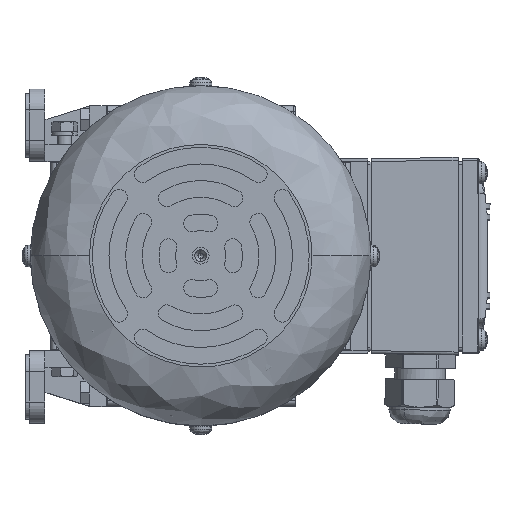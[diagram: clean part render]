
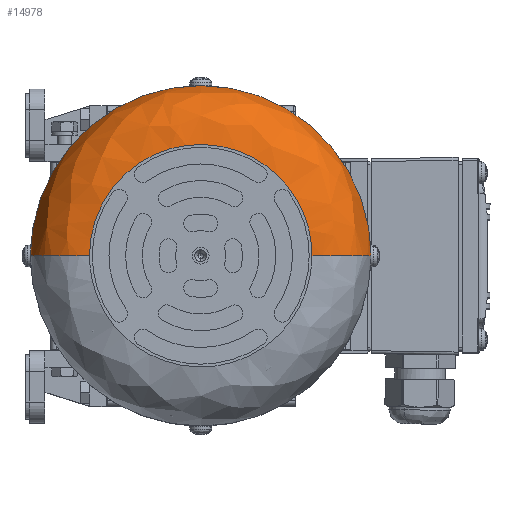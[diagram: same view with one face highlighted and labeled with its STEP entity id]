
A CAD part, top view. The second image highlights one B-rep face of the part: STEP entity #14978.
In plain terms, the highlighted free-form (B-spline) face has degree [3, 3] with [4, 7] control points.
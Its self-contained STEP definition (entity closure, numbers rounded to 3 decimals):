
#14978 = ADVANCED_FACE ( 'NONE', ( #27130 ), #31930, .T. ) ;
#15520 = EDGE_CURVE ( 'NONE', #120495, #120494, #107107, .T. ) ;
#17430 = CARTESIAN_POINT ( 'NONE',  ( 40., 80., 0. ) ) ;
#17484 = CARTESIAN_POINT ( 'NONE',  ( 40., 0., 0. ) ) ;
#17488 = CARTESIAN_POINT ( 'NONE',  ( -40., 80., 0. ) ) ;
#17489 = CARTESIAN_POINT ( 'NONE',  ( -40., 0., 0. ) ) ;
#27121 = CARTESIAN_POINT ( 'NONE',  ( 61.2, 0., 21.2 ) ) ;
#27130 = FACE_OUTER_BOUND ( 'NONE', #61329, .T. ) ;
#27140 = CARTESIAN_POINT ( 'NONE',  ( 61.2, 35.85, 21.2 ) ) ;
#27143 = CARTESIAN_POINT ( 'NONE',  ( 35.85, 61.2, 21.2 ) ) ;
#27146 = CARTESIAN_POINT ( 'NONE',  ( 0., 61.2, 21.2 ) ) ;
#27149 = CARTESIAN_POINT ( 'NONE',  ( -35.85, 61.2, 21.2 ) ) ;
#27152 = CARTESIAN_POINT ( 'NONE',  ( -61.2, 35.85, 21.2 ) ) ;
#27155 = CARTESIAN_POINT ( 'NONE',  ( -61.2, 0., 21.2 ) ) ;
#27158 = CARTESIAN_POINT ( 'NONE',  ( 61.2, 0., 8.781 ) ) ;
#27161 = CARTESIAN_POINT ( 'NONE',  ( 61.2, 35.85, 8.781 ) ) ;
#27164 = CARTESIAN_POINT ( 'NONE',  ( 35.85, 61.2, 8.781 ) ) ;
#27167 = CARTESIAN_POINT ( 'NONE',  ( 0., 61.2, 8.781 ) ) ;
#27170 = CARTESIAN_POINT ( 'NONE',  ( -35.85, 61.2, 8.781 ) ) ;
#27173 = CARTESIAN_POINT ( 'NONE',  ( -61.2, 35.85, 8.781 ) ) ;
#27176 = CARTESIAN_POINT ( 'NONE',  ( -61.2, 0., 8.781 ) ) ;
#27179 = CARTESIAN_POINT ( 'NONE',  ( 52.419, 0., 0. ) ) ;
#27182 = CARTESIAN_POINT ( 'NONE',  ( 52.419, 30.706, 0. ) ) ;
#27185 = CARTESIAN_POINT ( 'NONE',  ( 30.706, 52.419, 0. ) ) ;
#27188 = CARTESIAN_POINT ( 'NONE',  ( 0., 52.419, 0. ) ) ;
#27191 = CARTESIAN_POINT ( 'NONE',  ( -30.706, 52.419, 0. ) ) ;
#27194 = CARTESIAN_POINT ( 'NONE',  ( -52.419, 30.706, 0. ) ) ;
#27197 = CARTESIAN_POINT ( 'NONE',  ( -52.419, 0., 0. ) ) ;
#27200 = CARTESIAN_POINT ( 'NONE',  ( 40., 0., 0. ) ) ;
#27203 = CARTESIAN_POINT ( 'NONE',  ( 40., 23.431, 0. ) ) ;
#27206 = CARTESIAN_POINT ( 'NONE',  ( 23.431, 40., 0. ) ) ;
#27209 = CARTESIAN_POINT ( 'NONE',  ( 0., 40., 0. ) ) ;
#27212 = CARTESIAN_POINT ( 'NONE',  ( -23.431, 40., 0. ) ) ;
#27215 = CARTESIAN_POINT ( 'NONE',  ( -40., 23.431, 0. ) ) ;
#27218 = CARTESIAN_POINT ( 'NONE',  ( -40., 0., 0. ) ) ;
#31930 =( BOUNDED_SURFACE ( )  B_SPLINE_SURFACE ( 3, 3, ( 
 ( #27121, #27140, #27143, #27146, #27149, #27152, #27155 ),
 ( #27158, #27161, #27164, #27167, #27170, #27173, #27176 ),
 ( #27179, #27182, #27185, #27188, #27191, #27194, #27197 ),
 ( #27200, #27203, #27206, #27209, #27212, #27215, #27218 ) ),
 .UNSPECIFIED., .F., .F., .F. ) 
 B_SPLINE_SURFACE_WITH_KNOTS ( ( 4, 4 ),
 ( 4, 3, 4 ),
 ( 0., 1. ),
 ( 0., 0.5, 1. ),
 .UNSPECIFIED. ) 
 GEOMETRIC_REPRESENTATION_ITEM ( )  RATIONAL_B_SPLINE_SURFACE ( (
 ( 1., 0.805, 0.805, 1., 0.805, 0.805, 1.),
 ( 0.805, 0.648, 0.648, 0.805, 0.648, 0.648, 0.805),
 ( 0.805, 0.648, 0.648, 0.805, 0.648, 0.648, 0.805),
 ( 1., 0.805, 0.805, 1., 0.805, 0.805, 1.) ) ) 
 REPRESENTATION_ITEM ( '' )  SURFACE ( )  );
#34731 = ORIENTED_EDGE ( 'NONE', *, *, #127379, .F. ) ;
#34733 = ORIENTED_EDGE ( 'NONE', *, *, #127389, .F. ) ;
#34735 = ORIENTED_EDGE ( 'NONE', *, *, #127382, .T. ) ;
#34737 = ORIENTED_EDGE ( 'NONE', *, *, #15520, .T. ) ;
#53575 = CARTESIAN_POINT ( 'NONE',  ( 61.2, 0., 21.2 ) ) ;
#53584 = CARTESIAN_POINT ( 'NONE',  ( -61.2, 0., 21.2 ) ) ;
#53600 = CARTESIAN_POINT ( 'NONE',  ( -40., 0., 0. ) ) ;
#53603 = CARTESIAN_POINT ( 'NONE',  ( 40., 0., 0. ) ) ;
#61329 = EDGE_LOOP ( 'NONE', ( #34731, #34733, #34735, #34737 ) ) ;
#107107 =( BOUNDED_CURVE ( )  B_SPLINE_CURVE ( 3, ( #17484, #17430, #17488, #17489 ),
 .UNSPECIFIED., .F., .T. ) 
 B_SPLINE_CURVE_WITH_KNOTS ( ( 4, 4 ),
 ( 0.758, 1.258 ),
 .UNSPECIFIED. ) 
 CURVE ( )  GEOMETRIC_REPRESENTATION_ITEM ( )  RATIONAL_B_SPLINE_CURVE ( ( 1., 0.333, 0.333, 1. ) ) 
 REPRESENTATION_ITEM ( '' )  );
#107808 = CIRCLE ( 'NONE', #107822, 21.2 ) ;
#107822 = AXIS2_PLACEMENT_3D ( 'NONE', #109499, #109500, #109501 ) ;
#107828 = CIRCLE ( 'NONE', #107832, 21.2 ) ;
#107830 = CIRCLE ( 'NONE', #107845, 61.2 ) ;
#107832 = AXIS2_PLACEMENT_3D ( 'NONE', #109511, #109512, #109513 ) ;
#107845 = AXIS2_PLACEMENT_3D ( 'NONE', #109691, #109692, #109693 ) ;
#109499 = CARTESIAN_POINT ( 'NONE',  ( -40., 0., 21.2 ) ) ;
#109500 = DIRECTION ( 'NONE',  ( 0., -1., 0. ) ) ;
#109501 = DIRECTION ( 'NONE',  ( -1., 0., 0. ) ) ;
#109511 = CARTESIAN_POINT ( 'NONE',  ( 40., 0., 21.2 ) ) ;
#109512 = DIRECTION ( 'NONE',  ( 0., 1., 0. ) ) ;
#109513 = DIRECTION ( 'NONE',  ( 1., 0., 0. ) ) ;
#109691 = CARTESIAN_POINT ( 'NONE',  ( 0., 0., 21.2 ) ) ;
#109692 = DIRECTION ( 'NONE',  ( 0., 0., 1. ) ) ;
#109693 = DIRECTION ( 'NONE',  ( 1., 0., 0. ) ) ;
#120485 = VERTEX_POINT ( 'NONE', #53575 ) ;
#120488 = VERTEX_POINT ( 'NONE', #53584 ) ;
#120494 = VERTEX_POINT ( 'NONE', #53600 ) ;
#120495 = VERTEX_POINT ( 'NONE', #53603 ) ;
#127379 = EDGE_CURVE ( 'NONE', #120488, #120494, #107808, .T. ) ;
#127382 = EDGE_CURVE ( 'NONE', #120485, #120495, #107828, .T. ) ;
#127389 = EDGE_CURVE ( 'NONE', #120485, #120488, #107830, .T. ) ;
